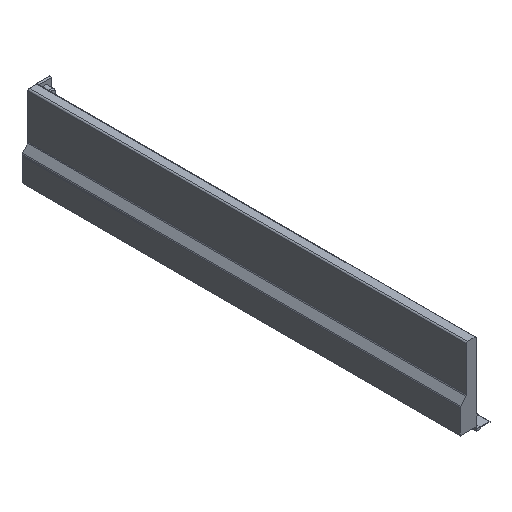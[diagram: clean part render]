
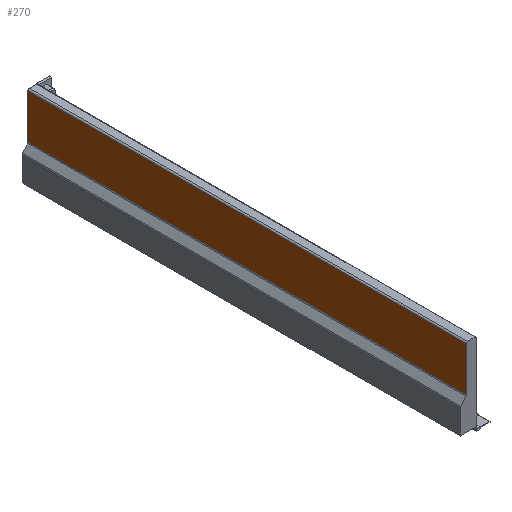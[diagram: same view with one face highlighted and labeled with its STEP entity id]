
A CAD part, isometric view. The second image highlights one B-rep face of the part: STEP entity #270.
In plain terms, the highlighted planar face has unit normal (-1, 0, 0).
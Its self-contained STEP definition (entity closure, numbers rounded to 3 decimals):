
#62 = EDGE_CURVE ( 'NONE', #1781, #1805, #1229, .T. ) ;
#63 = EDGE_CURVE ( 'NONE', #1750, #1762, #1213, .T. ) ;
#66 = EDGE_CURVE ( 'NONE', #1805, #1762, #1199, .T. ) ;
#118 = EDGE_CURVE ( 'NONE', #1781, #1750, #923, .T. ) ;
#270 = ADVANCED_FACE ( 'NONE', ( #1539 ), #2271, .T. ) ;
#436 = CARTESIAN_POINT ( 'NONE',  ( 6.5, 0., 34.728 ) ) ;
#492 = CARTESIAN_POINT ( 'NONE',  ( 6.5, 647., 34.728 ) ) ;
#543 = CARTESIAN_POINT ( 'NONE',  ( 6.5, 0., 100. ) ) ;
#653 = CARTESIAN_POINT ( 'NONE',  ( 6.5, 647., 100. ) ) ;
#795 = AXIS2_PLACEMENT_3D ( 'NONE', #2274, #2272, #2275 ) ;
#819 = EDGE_LOOP ( 'NONE', ( #1289, #1306, #1112, #1044 ) ) ;
#921 = VECTOR ( 'NONE', #1994, 1000. ) ;
#923 = LINE ( 'NONE', #1991, #921 ) ;
#1044 = ORIENTED_EDGE ( 'NONE', *, *, #62, .F. ) ;
#1112 = ORIENTED_EDGE ( 'NONE', *, *, #66, .F. ) ;
#1192 = VECTOR ( 'NONE', #1855, 1000. ) ;
#1199 = LINE ( 'NONE', #1867, #1192 ) ;
#1208 = VECTOR ( 'NONE', #1860, 1000. ) ;
#1213 = LINE ( 'NONE', #1859, #1208 ) ;
#1214 = VECTOR ( 'NONE', #1858, 1000. ) ;
#1229 = LINE ( 'NONE', #1857, #1214 ) ;
#1289 = ORIENTED_EDGE ( 'NONE', *, *, #118, .T. ) ;
#1306 = ORIENTED_EDGE ( 'NONE', *, *, #63, .T. ) ;
#1539 = FACE_OUTER_BOUND ( 'NONE', #819, .T. ) ;
#1750 = VERTEX_POINT ( 'NONE', #436 ) ;
#1762 = VERTEX_POINT ( 'NONE', #543 ) ;
#1781 = VERTEX_POINT ( 'NONE', #492 ) ;
#1805 = VERTEX_POINT ( 'NONE', #653 ) ;
#1855 = DIRECTION ( 'NONE',  ( 0., -1., 0. ) ) ;
#1857 = CARTESIAN_POINT ( 'NONE',  ( 6.5, 647., 34.728 ) ) ;
#1858 = DIRECTION ( 'NONE',  ( 0., 0., 1. ) ) ;
#1859 = CARTESIAN_POINT ( 'NONE',  ( 6.5, 0., 34.728 ) ) ;
#1860 = DIRECTION ( 'NONE',  ( 0., 0., 1. ) ) ;
#1867 = CARTESIAN_POINT ( 'NONE',  ( 6.5, 144.577, 100. ) ) ;
#1991 = CARTESIAN_POINT ( 'NONE',  ( 6.5, 144.577, 34.728 ) ) ;
#1994 = DIRECTION ( 'NONE',  ( 0., -1., 0. ) ) ;
#2271 = PLANE ( 'NONE',  #795 ) ;
#2272 = DIRECTION ( 'NONE',  ( -1., 0., 0. ) ) ;
#2274 = CARTESIAN_POINT ( 'NONE',  ( 6.5, 144.577, 34.728 ) ) ;
#2275 = DIRECTION ( 'NONE',  ( 0., 1., 0. ) ) ;
